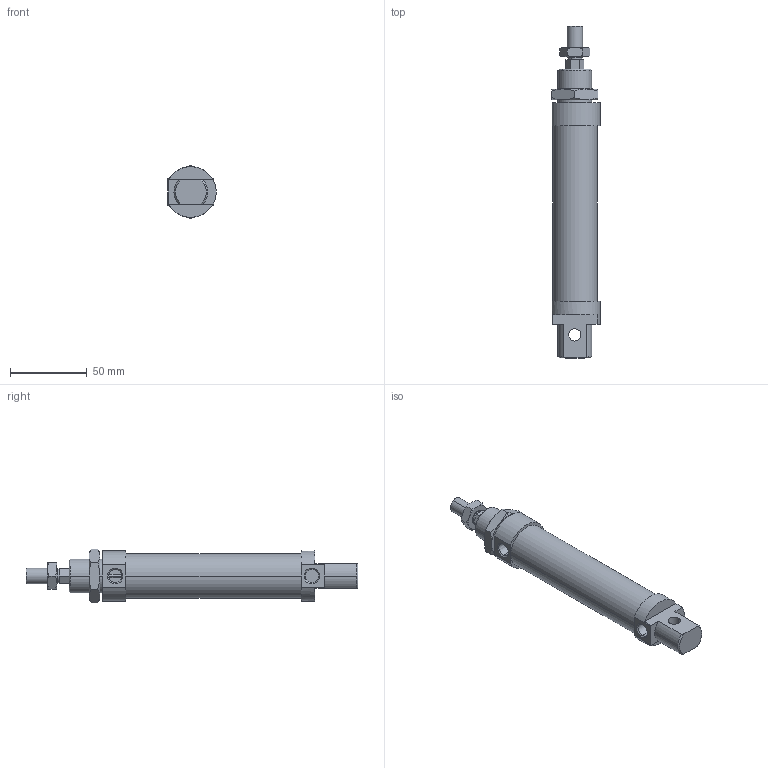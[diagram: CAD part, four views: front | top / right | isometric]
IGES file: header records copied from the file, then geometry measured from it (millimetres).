
Global section: file name: No Iges File Name specified; native system: AutoDesk Inventor R6.0; preprocessor: AutoDesk Inventor Iges Exporter R6.0; author: No Author specified; organization: No Organization specified; date: 20030405.074149; units: millimetre
Bounding box: 31.5 x 216 x 34.64 mm (x, y, z)
Volume: 118088.9 mm3; surface area: 30778.9 mm2
Topology: 4 solids, 4 shells, 125 faces, 285 edges, 174 vertices
Faces by surface type: plane 46, cone 38, bspline 21, cylinder 16, revolution 4
